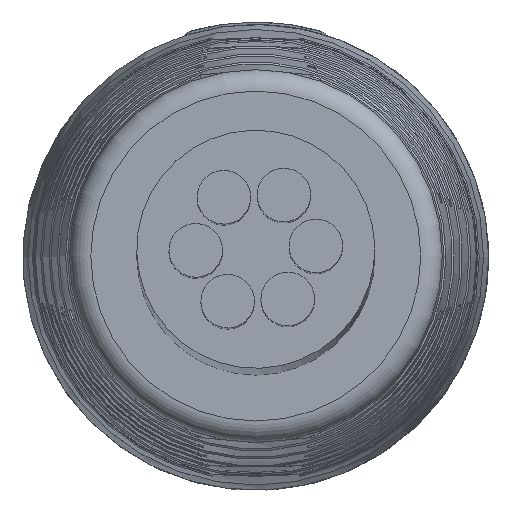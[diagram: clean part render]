
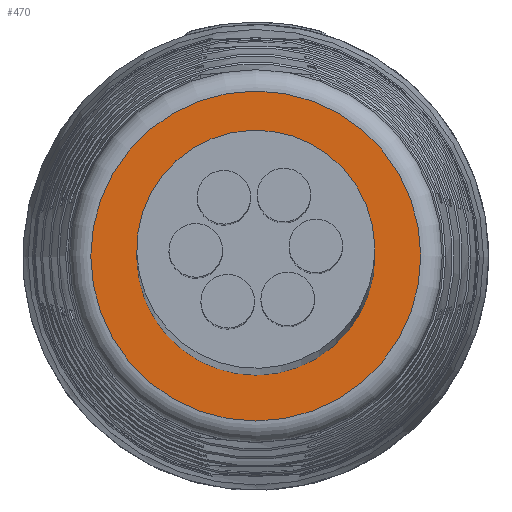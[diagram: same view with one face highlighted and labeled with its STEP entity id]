
A CAD part, top view. The second image highlights one B-rep face of the part: STEP entity #470.
In plain terms, the highlighted planar face has unit normal (0, 0, 1).
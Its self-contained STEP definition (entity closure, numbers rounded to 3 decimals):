
#470 = ADVANCED_FACE ( 'NONE', ( #22930, #9405 ), #15424, .T. ) ;
#1920 = VERTEX_POINT ( 'NONE', #12069 ) ;
#3097 = CIRCLE ( 'NONE', #17354, 5.55 ) ;
#5321 = CARTESIAN_POINT ( 'NONE',  ( 6.42, -7.483, -230.074 ) ) ;
#5387 = CARTESIAN_POINT ( 'NONE',  ( 6.42, -7.483, -230.074 ) ) ;
#5574 = DIRECTION ( 'NONE',  ( 1., 0., 0. ) ) ;
#5891 = AXIS2_PLACEMENT_3D ( 'NONE', #5321, #9276, #5574 ) ;
#6176 = ORIENTED_EDGE ( 'NONE', *, *, #17717, .F. ) ;
#9276 = DIRECTION ( 'NONE',  ( 0., 0., 1. ) ) ;
#9405 = FACE_BOUND ( 'NONE', #18935, .T. ) ;
#9749 = DIRECTION ( 'NONE',  ( 1., 0., 0. ) ) ;
#12069 = CARTESIAN_POINT ( 'NONE',  ( 11.97, -7.483, -230.074 ) ) ;
#12500 = AXIS2_PLACEMENT_3D ( 'NONE', #5387, #22753, #9749 ) ;
#12899 = EDGE_CURVE ( 'NONE', #19368, #19368, #12911, .T. ) ;
#12911 = CIRCLE ( 'NONE', #12500, 7.692 ) ;
#14121 = DIRECTION ( 'NONE',  ( 0., 0., 1. ) ) ;
#15424 = PLANE ( 'NONE',  #5891 ) ;
#17354 = AXIS2_PLACEMENT_3D ( 'NONE', #22350, #14121, #23571 ) ;
#17717 = EDGE_CURVE ( 'NONE', #1920, #1920, #3097, .T. ) ;
#18935 = EDGE_LOOP ( 'NONE', ( #6176 ) ) ;
#19368 = VERTEX_POINT ( 'NONE', #21280 ) ;
#21280 = CARTESIAN_POINT ( 'NONE',  ( 14.112, -7.483, -230.074 ) ) ;
#21735 = ORIENTED_EDGE ( 'NONE', *, *, #12899, .T. ) ;
#22350 = CARTESIAN_POINT ( 'NONE',  ( 6.42, -7.483, -230.074 ) ) ;
#22753 = DIRECTION ( 'NONE',  ( 0., 0., 1. ) ) ;
#22930 = FACE_OUTER_BOUND ( 'NONE', #23812, .T. ) ;
#23571 = DIRECTION ( 'NONE',  ( 1., 0., 0. ) ) ;
#23812 = EDGE_LOOP ( 'NONE', ( #21735 ) ) ;
